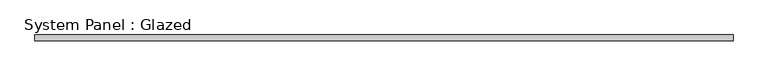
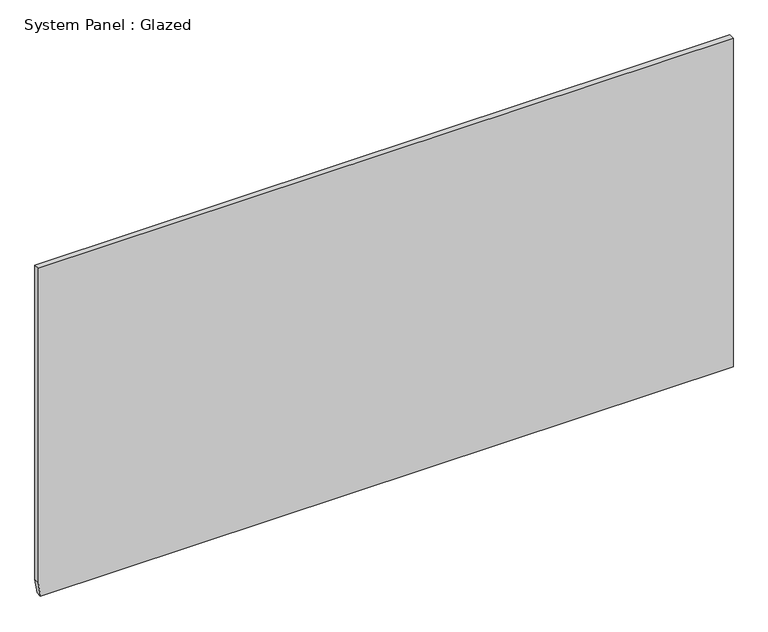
"""IFC4 building model written with IfcOpenShell, lengths in millimetres: plate geometry, System Panel : Glazed."""

from ifc_helpers import new_model, si_unit, frame, origin, place, context, project, spatial, polyline, outline, extrude, source, transform, mapped, element, save


def system_panel_glazed_a2a32a6e(model_context):
    return source(origin(), model_context, "Body", "SweptSolid", [
        extrude(outline(polyline([(0.0, -1514.6349718), (0.0, 1524.0), (1524.0, 1524.0), (1524.0, -1524.0), (65.7572379, -1524.0), (0.0, -1514.6349718)])), frame((0.0, 19.05, 0.0), z_axis=(0.0, 1.0, 0.0), x_axis=(0.0, 0.0, 1.0)), (0.0, 0.0, 1.0), 25.4),
    ])


if __name__ == "__main__":
    model = new_model("IFC4")
    model_context = context("Model", 3, world=origin())
    ifc_project = project(units=[si_unit("LENGTHUNIT", "METRE", prefix="MILLI")], contexts=[model_context])
    site = spatial("IfcSite", under=ifc_project)
    building = spatial("IfcBuilding", under=site)
    placement = place(None, origin())
    system_panel_glazed_shape = system_panel_glazed_a2a32a6e(model_context)
    element("IfcPlate", 1, ObjectType="System Panel : Glazed", at=placement, inside=building, context=model_context, shape_type="MappedRepresentation", body=[
        mapped(system_panel_glazed_shape, transform((0.0, 0.0, 0.0), x_axis=(1.0, 0.0, 0.0), y_axis=(0.0, 1.0, 0.0), z_axis=(0.0, 0.0, 1.0))),
    ])
    save(model, "model.ifc")
